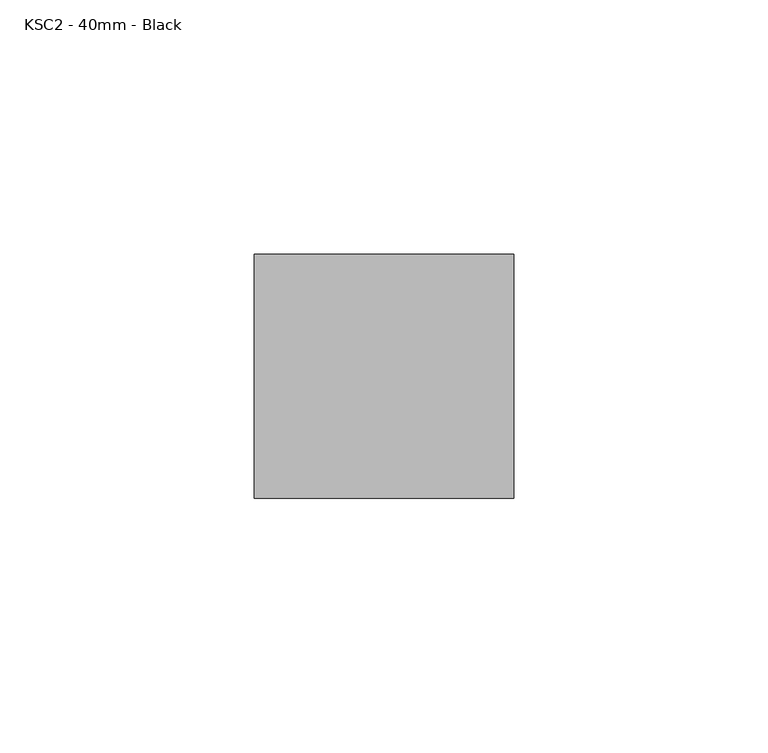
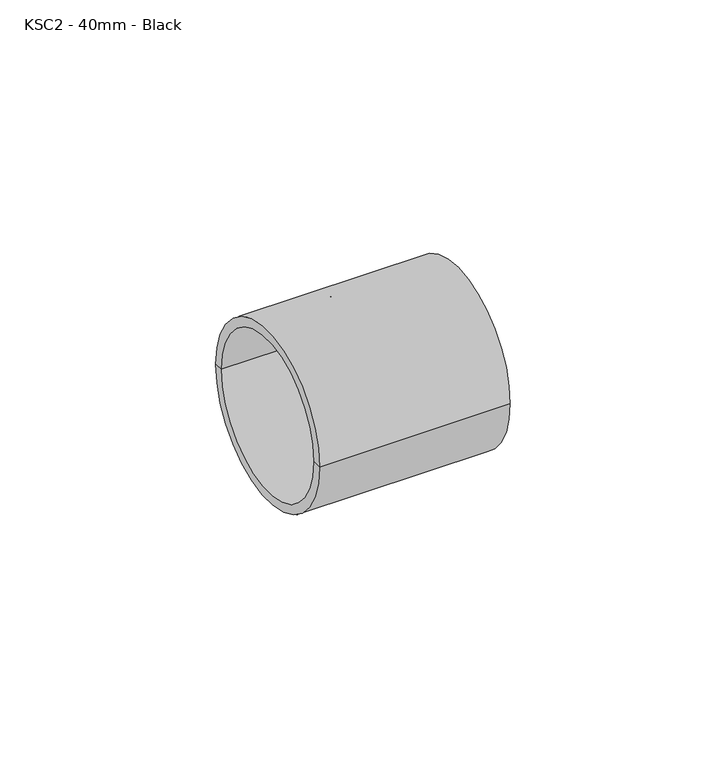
"""IFC4 building model written with IfcOpenShell, lengths in millimetres: pipe fitting geometry, MarleyPlumbingAndDrainage_PipeFitting_StraightCoupling : KSC2 - 40mm - Black."""

from ifc_helpers import new_model, si_unit, frame, origin, place, context, project, spatial, polyline, circle_curve, source, transform, mapped, element, save
from ifc_brep_helpers import plane_surface, cylinder_surface, revolved_surface, advanced_brep


def ksc2_40mm_black_a21aa28d(model_context):
    return source(origin(), model_context, "Body", "AdvancedBrep", [
        advanced_brep(
        [(-40.3253818, -21.5, 0.0), (-40.3253818, 21.5, 0.0), (-40.3253818, 24.0, 0.0), (-40.3253818, -24.0, 0.0), (-16.3253818, -21.5, 0.0), (-16.3253818, 21.5, 0.0), (-16.3253818, 0.0, 0.0), (-13.3253818, -21.5, 0.0), (-13.3253818, 21.5, 0.0), (-13.3253818, 0.0, 0.0), (10.6746182, -21.5, 0.0), (10.6746182, 21.5, 0.0), (10.6746182, -24.0, 0.0), (10.6746182, 24.0, 0.0)],
        [
            (0, 1, circle_curve(frame((-40.3253818, 0.0, 0.0), z_axis=(1.0, 0.0, 0.0), x_axis=(0.0, 1.0, 0.0)), 21.5)),
            (1, 2),
            (2, 3, circle_curve(frame((-40.3253818, 0.0, 0.0), z_axis=(-1.0, 0.0, 0.0), x_axis=(0.0, 1.0, 0.0)), 24.0)),
            (3, 0),
            (1, 0, circle_curve(frame((-40.3253818, 0.0, 0.0), z_axis=(1.0, 0.0, 0.0), x_axis=(0.0, 1.0, 0.0)), 21.5)),
            (3, 2, circle_curve(frame((-40.3253818, 0.0, 0.0), z_axis=(-1.0, 0.0, 0.0), x_axis=(0.0, 1.0, 0.0)), 24.0)),
            (4, 5, circle_curve(frame((-16.3253818, 0.0, 0.0), z_axis=(1.0, 0.0, 0.0), x_axis=(0.0, 1.0, 0.0)), 21.5)),
            (5, 1),
            (0, 4),
            (5, 4, circle_curve(frame((-16.3253818, 0.0, 0.0), z_axis=(1.0, 0.0, 0.0), x_axis=(0.0, 1.0, 0.0)), 21.5)),
            (6, 5),
            (4, 6),
            (7, 8, circle_curve(frame((-13.3253818, 0.0, 0.0), z_axis=(1.0, 0.0, 0.0), x_axis=(0.0, 1.0, 0.0)), 21.5)),
            (8, 9),
            (9, 7),
            (8, 7, circle_curve(frame((-13.3253818, 0.0, 0.0), z_axis=(1.0, 0.0, 0.0), x_axis=(0.0, 1.0, 0.0)), 21.5)),
            (10, 11, circle_curve(frame((10.6746182, 0.0, 0.0), z_axis=(1.0, 0.0, 0.0), x_axis=(0.0, 1.0, 0.0)), 21.5)),
            (11, 8),
            (7, 10),
            (11, 10, circle_curve(frame((10.6746182, 0.0, 0.0), z_axis=(1.0, 0.0, 0.0), x_axis=(0.0, 1.0, 0.0)), 21.5)),
            (12, 13, circle_curve(frame((10.6746182, 0.0, 0.0), z_axis=(1.0, 0.0, 0.0), x_axis=(0.0, 1.0, 0.0)), 24.0)),
            (13, 11),
            (10, 12),
            (13, 12, circle_curve(frame((10.6746182, 0.0, 0.0), z_axis=(1.0, 0.0, 0.0), x_axis=(0.0, 1.0, 0.0)), 24.0)),
            (2, 13),
            (12, 3),
        ],
        [
            plane_surface(frame((-40.3253818, 0.0, 0.0), z_axis=(-1.0, 0.0, 0.0), x_axis=(0.0, 1.0, 0.0))),
            revolved_surface(polyline([(-40.32538180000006, 21.5, 0.0), (-16.32538180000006, 21.5, 0.0)]), (2002.5, 0.0, 0.0), (-1.0, 0.0, 0.0)),
            plane_surface(frame((-16.3253818, 0.0, 0.0), z_axis=(-1.0, 0.0, 0.0), x_axis=(0.0, 1.0, 0.0))),
            plane_surface(frame((-13.3253818, 0.0, 0.0), z_axis=(1.0, 0.0, 0.0), x_axis=(0.0, 1.0, 0.0))),
            revolved_surface(polyline([(-13.32538180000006, 21.5, 0.0), (10.67461819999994, 21.5, 0.0)]), (2002.5, 0.0, 0.0), (-1.0, 0.0, 0.0)),
            plane_surface(frame((10.6746182, 0.0, 0.0), z_axis=(1.0, 0.0, 0.0), x_axis=(0.0, 1.0, 0.0))),
            cylinder_surface(frame((2002.5, 0.0, 0.0), z_axis=(-1.0, 0.0, 0.0), x_axis=(0.0, 1.0, 0.0)), 24.0),
        ],
        [
            (0, [[1, 2, 3, 4]]),
            (0, [[5, -4, 6, -2]]),
            (1, [[7, 8, -1, 9]]),
            (1, [[10, -9, -5, -8]]),
            (2, [[11, -7, 12]]),
            (2, [[-12, -10, -11]]),
            (3, [[13, 14, 15]]),
            (3, [[16, -15, -14]]),
            (4, [[17, 18, -13, 19]]),
            (4, [[20, -19, -16, -18]]),
            (5, [[21, 22, -17, 23]]),
            (5, [[24, -23, -20, -22]]),
            (6, [[-3, 25, -21, 26]]),
            (6, [[-6, -26, -24, -25]]),
        ],
    ),
    ])


if __name__ == "__main__":
    model = new_model("IFC4")
    model_context = context("Model", 3, world=origin())
    ifc_project = project(units=[si_unit("LENGTHUNIT", "METRE", prefix="MILLI")], contexts=[model_context])
    site = spatial("IfcSite", under=ifc_project)
    building = spatial("IfcBuilding", under=site)
    placement = place(None, origin())
    ksc2_40mm_black_shape = ksc2_40mm_black_a21aa28d(model_context)
    element("IfcPipeFitting", 1, ObjectType="MarleyPlumbingAndDrainage_PipeFitting_StraightCoupling : KSC2 - 40mm - Black", at=placement, inside=building, context=model_context, shape_type="MappedRepresentation", body=[
        mapped(ksc2_40mm_black_shape, transform((0.0, 0.0, 0.0), x_axis=(1.0, 0.0, 0.0), y_axis=(0.0, 1.0, 0.0), z_axis=(0.0, 0.0, 1.0))),
    ])
    save(model, "model.ifc")
